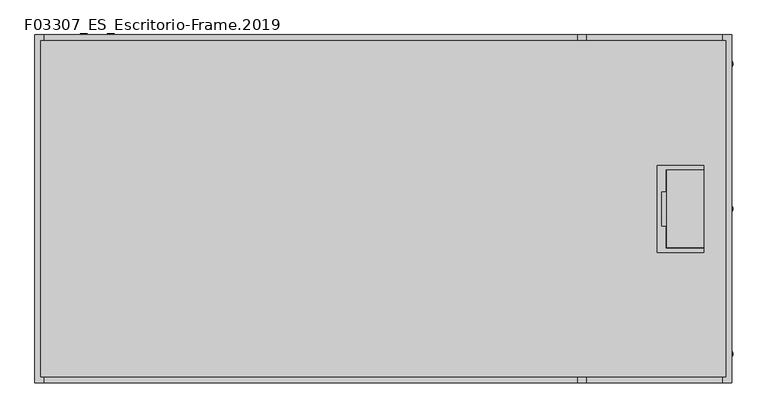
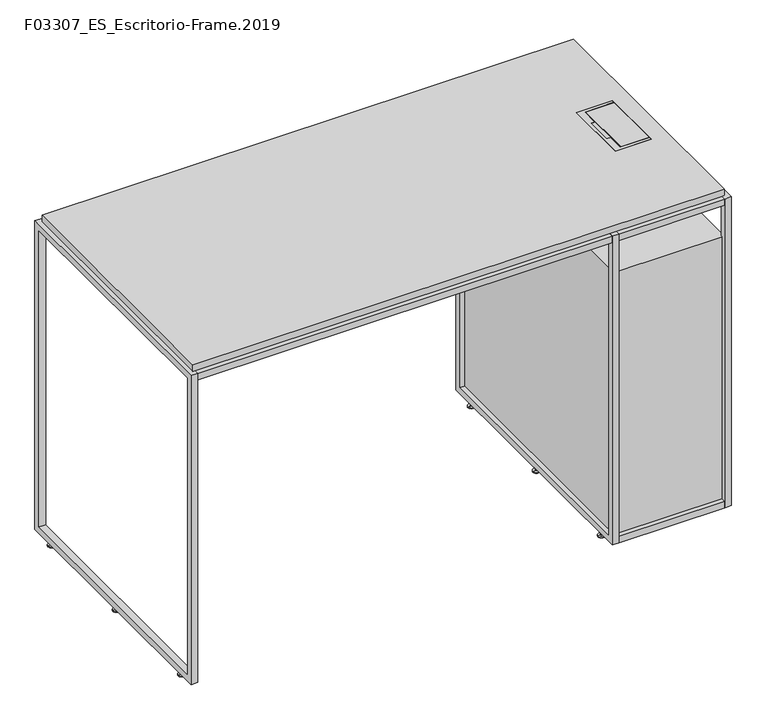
"""IFC4 building model written with IfcOpenShell, lengths in millimetres: furniture geometry, F03307_ES_Escritorio-Frame.2019 : Único."""

from ifc_helpers import new_model, si_unit, point, frame, frame_2d, origin, place, context, project, spatial, polyline, circle_curve, trimmed, segment, composite_curve, outline, extrude, source, transform, mapped, element, save
from ifc_brep_helpers import plane_surface, cylinder_surface, advanced_brep


def f03307_es_escritorio_frame_2019_0ddade11(model_context):
    return source(origin(), model_context, "Body", "SolidModel", [
        extrude(outline(polyline([(-600.0, 735.0), (0.0, 735.0), (0.0, 10.0), (-600.0, 10.0), (-600.0, 735.0)]), holes=[polyline([(-15.0, 720.0), (-585.0, 720.0), (-585.0, 25.0), (-15.0, 25.0), (-15.0, 720.0)])]), frame((585.0, 0.0, 0.0), z_axis=(1.0, 0.0, 0.0), x_axis=(0.0, 1.0, 0.0)), (0.0, 0.0, 1.0), 15.0),
        extrude(outline(polyline([(-600.0, 735.0), (0.0, 735.0), (0.0, 10.0), (-600.0, 10.0), (-600.0, 735.0)]), holes=[polyline([(-15.0, 720.0), (-585.0, 720.0), (-585.0, 25.0), (-15.0, 25.0), (-15.0, 720.0)])]), frame((-600.0, 0.0, 0.0), z_axis=(1.0, 0.0, 0.0), x_axis=(0.0, 1.0, 0.0)), (0.0, 0.0, 1.0), 15.0),
        extrude(outline(polyline([(590.0, -10.0), (590.0, -590.0), (-590.0, -590.0), (-590.0, -10.0), (590.0, -10.0)]), holes=[polyline([(551.8383738, -225.0), (471.8383738, -225.0), (471.8383738, -375.0), (551.8383738, -375.0), (551.8383738, -225.0)])]), frame((0.0, 0.0, 735.0), z_axis=(0.0, 0.0, 1.0), x_axis=(1.0, 0.0, 0.0)), (0.0, 0.0, 1.0), 15.0),
        extrude(outline(polyline([(-600.0, 735.0), (0.0, 735.0), (0.0, 10.0), (-600.0, 10.0), (-600.0, 735.0)]), holes=[polyline([(-15.0, 720.0), (-585.0, 720.0), (-585.0, 25.0), (-15.0, 25.0), (-15.0, 720.0)])]), frame((335.0, 0.0, 0.0), z_axis=(1.0, 0.0, 0.0), x_axis=(0.0, 1.0, 0.0)), (0.0, 0.0, 1.0), 15.0),
        extrude(outline(polyline([(335.0, -585.0), (335.0, -600.0), (-585.0, -600.0), (-585.0, -585.0), (335.0, -585.0)])), frame((0.0, 0.0, 720.0), z_axis=(0.0, 0.0, 1.0), x_axis=(1.0, 0.0, 0.0)), (0.0, 0.0, 1.0), 15.0),
        extrude(outline(polyline([(335.0, 0.0), (335.0, -15.0), (-585.0, -15.0), (-585.0, 0.0), (335.0, 0.0)])), frame((0.0, 0.0, 720.0), z_axis=(0.0, 0.0, 1.0), x_axis=(1.0, 0.0, 0.0)), (0.0, 0.0, 1.0), 15.0),
        extrude(outline(polyline([(585.0, -585.0), (585.0, -600.0), (350.0, -600.0), (350.0, -585.0), (585.0, -585.0)])), frame((0.0, 0.0, 720.0), z_axis=(0.0, 0.0, 1.0), x_axis=(1.0, 0.0, 0.0)), (0.0, 0.0, 1.0), 15.0),
        extrude(outline(polyline([(585.0, 0.0), (585.0, -15.0), (350.0, -15.0), (350.0, 0.0), (585.0, 0.0)])), frame((0.0, 0.0, 720.0), z_axis=(0.0, 0.0, 1.0), x_axis=(1.0, 0.0, 0.0)), (0.0, 0.0, 1.0), 15.0),
        extrude(outline(polyline([(585.0, 0.0), (585.0, -15.0), (350.0, -15.0), (350.0, 0.0), (585.0, 0.0)])), frame((0.0, 0.0, 10.0), z_axis=(0.0, 0.0, 1.0), x_axis=(1.0, 0.0, 0.0)), (0.0, 0.0, 1.0), 15.0),
        extrude(outline(polyline([(585.0, -585.0), (585.0, -600.0), (350.0, -600.0), (350.0, -585.0), (585.0, -585.0)])), frame((0.0, 0.0, 10.0), z_axis=(0.0, 0.0, 1.0), x_axis=(1.0, 0.0, 0.0)), (0.0, 0.0, 1.0), 15.0),
        extrude(outline(polyline([(345.0, -10.0), (590.0, -10.0), (590.0, -590.0), (345.0, -590.0), (345.0, -10.0)]), holes=[composite_curve([segment(trimmed(circle_curve(frame_2d((467.5, -56.0)), 25.0), [point((442.5, -56.0))], [point((492.5, -56.0))], True, "CARTESIAN"), True, "CONTINUOUS"), segment(trimmed(circle_curve(frame_2d((467.5, -56.0)), 25.0), [point((492.5, -56.0))], [point((442.5, -56.0))], True, "CARTESIAN"), True, "CONTINUOUS")], self_intersect=False)]), frame((0.0, 0.0, 25.0), z_axis=(0.0, 0.0, 1.0), x_axis=(1.0, 0.0, 0.0)), (0.0, 0.0, 1.0), 615.0),
        extrude(outline(composite_curve([segment(polyline([(720.0, 428.0), (718.0, 428.0), (718.0, 586.0)]), True, "CONTINUOUS"), segment(trimmed(circle_curve(frame_2d((716.0, 586.0)), 2.0), [point((718.0, 586.0))], [point((716.0, 588.0))], True, "CARTESIAN"), True, "CONTINUOUS"), segment(polyline([(716.0, 588.0), (674.0, 588.0)]), True, "CONTINUOUS"), segment(trimmed(circle_curve(frame_2d((674.0, 586.0)), 2.0), [point((674.0, 588.0))], [point((672.0, 586.0))], True, "CARTESIAN"), True, "CONTINUOUS"), segment(polyline([(672.0, 586.0), (672.0, 428.0)]), True, "CONTINUOUS"), segment(trimmed(circle_curve(frame_2d((674.0, 428.0)), 2.0), [point((672.0, 428.0))], [point((674.0, 426.0))], True, "CARTESIAN"), True, "CONTINUOUS"), segment(polyline([(674.0, 426.0), (682.0, 426.0), (682.0, 424.0), (674.0, 424.0)]), True, "CONTINUOUS"), segment(trimmed(circle_curve(frame_2d((674.0, 428.0)), 4.0), [point((674.0, 424.0))], [point((670.0, 428.0))], False, "CARTESIAN"), True, "CONTINUOUS"), segment(polyline([(670.0, 428.0), (670.0, 586.0)]), True, "CONTINUOUS"), segment(trimmed(circle_curve(frame_2d((674.0, 586.0)), 4.0), [point((670.0, 586.0))], [point((674.0, 590.0))], False, "CARTESIAN"), True, "CONTINUOUS"), segment(polyline([(674.0, 590.0), (716.0, 590.0)]), True, "CONTINUOUS"), segment(trimmed(circle_curve(frame_2d((716.0, 586.0)), 4.0), [point((716.0, 590.0))], [point((720.0, 586.0))], False, "CARTESIAN"), True, "CONTINUOUS"), segment(polyline([(720.0, 586.0), (720.0, 428.0)]), True, "CONTINUOUS")], self_intersect=False)), frame((0.0, -445.8132464, 0.0), z_axis=(0.0, 1.0, 0.0), x_axis=(0.0, 0.0, 1.0)), (0.0, 0.0, 1.0), 315.8132464),
        extrude(outline(polyline([(551.8383738, -225.0), (551.8383738, -232.0), (486.4552224, -232.0), (486.4552224, -270.0), (478.4552224, -270.0), (478.4552224, -330.0), (486.4552224, -330.0), (486.4552224, -368.0), (551.8383738, -368.0), (551.8383738, -375.0), (471.8383738, -375.0), (471.8383738, -225.0), (551.8383738, -225.0)])), frame((0.0, 0.0, 749.0), z_axis=(0.0, 0.0, 1.0), x_axis=(1.0, 0.0, 0.0)), (0.0, 0.0, 1.0), 1.0),
        extrude(outline(polyline([(488.4552224, -367.0), (488.4552224, -233.0), (551.8383738, -233.0), (551.8383738, -367.0), (488.4552224, -367.0)])), frame((0.0, 0.0, 749.0), z_axis=(0.0, 0.0, 1.0), x_axis=(1.0, 0.0, 0.0)), (0.0, 0.0, 1.0), 1.0),
        advanced_brep(
        [(-591.0, -50.0, 10.0), (-594.0, -50.0, 10.0), (-592.5, -50.0, 10.0), (-591.0, -50.0, 2.0), (-594.0, -50.0, 2.0), (-585.0, -50.0, 2.0), (-600.0, -50.0, 2.0), (-585.0, -50.0, 0.0), (-600.0, -50.0, 0.0), (-592.5, -50.0, 0.0)],
        [
            (0, 1, circle_curve(frame((-592.5, -50.0, 10.0), z_axis=(0.0, 0.0, 1.0), x_axis=(-1.0, 0.0, 0.0)), 1.5)),
            (1, 2),
            (2, 0),
            (1, 0, circle_curve(frame((-592.5, -50.0, 10.0), z_axis=(0.0, 0.0, 1.0), x_axis=(-1.0, 0.0, 0.0)), 1.5)),
            (3, 4, circle_curve(frame((-592.5, -50.0, 2.0), z_axis=(0.0, 0.0, 1.0), x_axis=(-1.0, 0.0, 0.0)), 1.5)),
            (4, 1),
            (0, 3),
            (4, 3, circle_curve(frame((-592.5, -50.0, 2.0), z_axis=(0.0, 0.0, 1.0), x_axis=(-1.0, 0.0, 0.0)), 1.5)),
            (5, 6, circle_curve(frame((-592.5, -50.0, 2.0), z_axis=(0.0, 0.0, 1.0), x_axis=(-1.0, 0.0, 0.0)), 7.5)),
            (6, 4),
            (3, 5),
            (6, 5, circle_curve(frame((-592.5, -50.0, 2.0), z_axis=(0.0, 0.0, 1.0), x_axis=(-1.0, 0.0, 0.0)), 7.5)),
            (7, 8, circle_curve(frame((-592.5, -50.0, 0.0), z_axis=(0.0, 0.0, 1.0), x_axis=(-1.0, 0.0, 0.0)), 7.5)),
            (8, 6),
            (5, 7),
            (8, 7, circle_curve(frame((-592.5, -50.0, 0.0), z_axis=(0.0, 0.0, 1.0), x_axis=(-1.0, 0.0, 0.0)), 7.5)),
            (9, 8),
            (7, 9),
        ],
        [
            plane_surface(frame((-592.5, -50.0, 10.0), z_axis=(0.0, 0.0, 1.0), x_axis=(-1.0, 0.0, 0.0))),
            cylinder_surface(frame((-592.5, -50.0, 10.0), z_axis=(0.0, 0.0, -1.0), x_axis=(-1.0, 0.0, 0.0)), 1.5),
            plane_surface(frame((-592.5, -50.0, 2.0), z_axis=(0.0, 0.0, 1.0), x_axis=(-1.0, 0.0, 0.0))),
            cylinder_surface(frame((-592.5, -50.0, 10.0), z_axis=(0.0, 0.0, -1.0), x_axis=(-1.0, 0.0, 0.0)), 7.5),
            plane_surface(frame((-592.5, -50.0, 0.0), z_axis=(0.0, 0.0, -1.0), x_axis=(-1.0, 0.0, 0.0))),
        ],
        [
            (0, [[1, 2, 3]]),
            (0, [[4, -3, -2]]),
            (1, [[5, 6, -1, 7]]),
            (1, [[8, -7, -4, -6]]),
            (2, [[9, 10, -5, 11]]),
            (2, [[12, -11, -8, -10]]),
            (3, [[13, 14, -9, 15]]),
            (3, [[16, -15, -12, -14]]),
            (4, [[17, -13, 18]]),
            (4, [[-18, -16, -17]]),
        ],
    ),
        advanced_brep(
        [(-592.5, -550.0, 10.0), (-594.0, -550.0, 10.0), (-591.0, -550.0, 10.0), (-594.0, -550.0, 2.0), (-591.0, -550.0, 2.0), (-600.0, -550.0, 2.0), (-585.0, -550.0, 2.0), (-600.0, -550.0, 0.0), (-585.0, -550.0, 0.0), (-592.5, -550.0, 0.0)],
        [
            (0, 1),
            (1, 2, circle_curve(frame((-592.5, -550.0, 10.0), z_axis=(0.0, 0.0, 1.0), x_axis=(-1.0, 0.0, 0.0)), 1.5)),
            (2, 0),
            (2, 1, circle_curve(frame((-592.5, -550.0, 10.0), z_axis=(0.0, 0.0, 1.0), x_axis=(-1.0, 0.0, 0.0)), 1.5)),
            (1, 3),
            (3, 4, circle_curve(frame((-592.5, -550.0, 2.0), z_axis=(0.0, 0.0, 1.0), x_axis=(-1.0, 0.0, 0.0)), 1.5)),
            (4, 2),
            (4, 3, circle_curve(frame((-592.5, -550.0, 2.0), z_axis=(0.0, 0.0, 1.0), x_axis=(-1.0, 0.0, 0.0)), 1.5)),
            (3, 5),
            (5, 6, circle_curve(frame((-592.5, -550.0, 2.0), z_axis=(0.0, 0.0, 1.0), x_axis=(-1.0, 0.0, 0.0)), 7.5)),
            (6, 4),
            (6, 5, circle_curve(frame((-592.5, -550.0, 2.0), z_axis=(0.0, 0.0, 1.0), x_axis=(-1.0, 0.0, 0.0)), 7.5)),
            (5, 7),
            (7, 8, circle_curve(frame((-592.5, -550.0, 0.0), z_axis=(0.0, 0.0, 1.0), x_axis=(-1.0, 0.0, 0.0)), 7.5)),
            (8, 6),
            (8, 7, circle_curve(frame((-592.5, -550.0, 0.0), z_axis=(0.0, 0.0, 1.0), x_axis=(-1.0, 0.0, 0.0)), 7.5)),
            (7, 9),
            (9, 8),
        ],
        [
            plane_surface(frame((-592.5, -550.0, 10.0), z_axis=(0.0, 0.0, 1.0), x_axis=(-1.0, 0.0, 0.0))),
            cylinder_surface(frame((-592.5, -550.0, 10.0), z_axis=(0.0, 0.0, 1.0), x_axis=(-1.0, 0.0, 0.0)), 1.5),
            plane_surface(frame((-592.5, -550.0, 2.0), z_axis=(0.0, 0.0, 1.0), x_axis=(-1.0, 0.0, 0.0))),
            cylinder_surface(frame((-592.5, -550.0, 10.0), z_axis=(0.0, 0.0, 1.0), x_axis=(-1.0, 0.0, 0.0)), 7.5),
            plane_surface(frame((-592.5, -550.0, 0.0), z_axis=(0.0, 0.0, -1.0), x_axis=(-1.0, 0.0, 0.0))),
        ],
        [
            (0, [[1, 2, 3]]),
            (0, [[-3, 4, -1]]),
            (1, [[-2, 5, 6, 7]]),
            (1, [[-4, -7, 8, -5]]),
            (2, [[-6, 9, 10, 11]]),
            (2, [[-8, -11, 12, -9]]),
            (3, [[-10, 13, 14, 15]]),
            (3, [[-12, -15, 16, -13]]),
            (4, [[-14, 17, 18]]),
            (4, [[-16, -18, -17]]),
        ],
    ),
        advanced_brep(
        [(-591.0, -300.0, 10.0), (-594.0, -300.0, 10.0), (-592.5, -300.0, 10.0), (-591.0, -300.0, 2.0), (-594.0, -300.0, 2.0), (-585.0, -300.0, 2.0), (-600.0, -300.0, 2.0), (-585.0, -300.0, 0.0), (-600.0, -300.0, 0.0), (-592.5, -300.0, 0.0)],
        [
            (0, 1, circle_curve(frame((-592.5, -300.0, 10.0), z_axis=(0.0, 0.0, 1.0), x_axis=(-1.0, 0.0, 0.0)), 1.5)),
            (1, 2),
            (2, 0),
            (1, 0, circle_curve(frame((-592.5, -300.0, 10.0), z_axis=(0.0, 0.0, 1.0), x_axis=(-1.0, 0.0, 0.0)), 1.5)),
            (3, 4, circle_curve(frame((-592.5, -300.0, 2.0), z_axis=(0.0, 0.0, 1.0), x_axis=(-1.0, 0.0, 0.0)), 1.5)),
            (4, 1),
            (0, 3),
            (4, 3, circle_curve(frame((-592.5, -300.0, 2.0), z_axis=(0.0, 0.0, 1.0), x_axis=(-1.0, 0.0, 0.0)), 1.5)),
            (5, 6, circle_curve(frame((-592.5, -300.0, 2.0), z_axis=(0.0, 0.0, 1.0), x_axis=(-1.0, 0.0, 0.0)), 7.5)),
            (6, 4),
            (3, 5),
            (6, 5, circle_curve(frame((-592.5, -300.0, 2.0), z_axis=(0.0, 0.0, 1.0), x_axis=(-1.0, 0.0, 0.0)), 7.5)),
            (7, 8, circle_curve(frame((-592.5, -300.0, 0.0), z_axis=(0.0, 0.0, 1.0), x_axis=(-1.0, 0.0, 0.0)), 7.5)),
            (8, 6),
            (5, 7),
            (8, 7, circle_curve(frame((-592.5, -300.0, 0.0), z_axis=(0.0, 0.0, 1.0), x_axis=(-1.0, 0.0, 0.0)), 7.5)),
            (9, 8),
            (7, 9),
        ],
        [
            plane_surface(frame((-592.5, -300.0, 10.0), z_axis=(0.0, 0.0, 1.0), x_axis=(-1.0, 0.0, 0.0))),
            cylinder_surface(frame((-592.5, -300.0, 10.0), z_axis=(0.0, 0.0, -1.0), x_axis=(-1.0, 0.0, 0.0)), 1.5),
            plane_surface(frame((-592.5, -300.0, 2.0), z_axis=(0.0, 0.0, 1.0), x_axis=(-1.0, 0.0, 0.0))),
            cylinder_surface(frame((-592.5, -300.0, 10.0), z_axis=(0.0, 0.0, -1.0), x_axis=(-1.0, 0.0, 0.0)), 7.5),
            plane_surface(frame((-592.5, -300.0, 0.0), z_axis=(0.0, 0.0, -1.0), x_axis=(-1.0, 0.0, 0.0))),
        ],
        [
            (0, [[1, 2, 3]]),
            (0, [[4, -3, -2]]),
            (1, [[5, 6, -1, 7]]),
            (1, [[8, -7, -4, -6]]),
            (2, [[9, 10, -5, 11]]),
            (2, [[12, -11, -8, -10]]),
            (3, [[13, 14, -9, 15]]),
            (3, [[16, -15, -12, -14]]),
            (4, [[17, -13, 18]]),
            (4, [[-18, -16, -17]]),
        ],
    ),
        advanced_brep(
        [(341.5, -50.0, 10.0), (338.5, -50.0, 10.0), (340.0, -50.0, 10.0), (341.5, -50.0, 2.0), (338.5, -50.0, 2.0), (347.5, -50.0, 2.0), (332.5, -50.0, 2.0), (347.5, -50.0, 0.0), (332.5, -50.0, 0.0), (340.0, -50.0, 0.0)],
        [
            (0, 1, circle_curve(frame((340.0, -50.0, 10.0), z_axis=(0.0, 0.0, 1.0), x_axis=(-1.0, 0.0, 0.0)), 1.5)),
            (1, 2),
            (2, 0),
            (1, 0, circle_curve(frame((340.0, -50.0, 10.0), z_axis=(0.0, 0.0, 1.0), x_axis=(-1.0, 0.0, 0.0)), 1.5)),
            (3, 4, circle_curve(frame((340.0, -50.0, 2.0), z_axis=(0.0, 0.0, 1.0), x_axis=(-1.0, 0.0, 0.0)), 1.5)),
            (4, 1),
            (0, 3),
            (4, 3, circle_curve(frame((340.0, -50.0, 2.0), z_axis=(0.0, 0.0, 1.0), x_axis=(-1.0, 0.0, 0.0)), 1.5)),
            (5, 6, circle_curve(frame((340.0, -50.0, 2.0), z_axis=(0.0, 0.0, 1.0), x_axis=(-1.0, 0.0, 0.0)), 7.5)),
            (6, 4),
            (3, 5),
            (6, 5, circle_curve(frame((340.0, -50.0, 2.0), z_axis=(0.0, 0.0, 1.0), x_axis=(-1.0, 0.0, 0.0)), 7.5)),
            (7, 8, circle_curve(frame((340.0, -50.0, 0.0), z_axis=(0.0, 0.0, 1.0), x_axis=(-1.0, 0.0, 0.0)), 7.5)),
            (8, 6),
            (5, 7),
            (8, 7, circle_curve(frame((340.0, -50.0, 0.0), z_axis=(0.0, 0.0, 1.0), x_axis=(-1.0, 0.0, 0.0)), 7.5)),
            (9, 8),
            (7, 9),
        ],
        [
            plane_surface(frame((340.0, -50.0, 10.0), z_axis=(0.0, 0.0, 1.0), x_axis=(-1.0, 0.0, 0.0))),
            cylinder_surface(frame((340.0, -50.0, 10.0), z_axis=(0.0, 0.0, -1.0), x_axis=(-1.0, 0.0, 0.0)), 1.5),
            plane_surface(frame((340.0, -50.0, 2.0), z_axis=(0.0, 0.0, 1.0), x_axis=(-1.0, 0.0, 0.0))),
            cylinder_surface(frame((340.0, -50.0, 10.0), z_axis=(0.0, 0.0, -1.0), x_axis=(-1.0, 0.0, 0.0)), 7.5),
            plane_surface(frame((340.0, -50.0, 0.0), z_axis=(0.0, 0.0, -1.0), x_axis=(-1.0, 0.0, 0.0))),
        ],
        [
            (0, [[1, 2, 3]]),
            (0, [[4, -3, -2]]),
            (1, [[5, 6, -1, 7]]),
            (1, [[8, -7, -4, -6]]),
            (2, [[9, 10, -5, 11]]),
            (2, [[12, -11, -8, -10]]),
            (3, [[13, 14, -9, 15]]),
            (3, [[16, -15, -12, -14]]),
            (4, [[17, -13, 18]]),
            (4, [[-18, -16, -17]]),
        ],
    ),
        advanced_brep(
        [(340.0, -550.0, 10.0), (338.5, -550.0, 10.0), (341.5, -550.0, 10.0), (338.5, -550.0, 2.0), (341.5, -550.0, 2.0), (332.5, -550.0, 2.0), (347.5, -550.0, 2.0), (332.5, -550.0, 0.0), (347.5, -550.0, 0.0), (340.0, -550.0, 0.0)],
        [
            (0, 1),
            (1, 2, circle_curve(frame((340.0, -550.0, 10.0), z_axis=(0.0, 0.0, 1.0), x_axis=(-1.0, 0.0, 0.0)), 1.5)),
            (2, 0),
            (2, 1, circle_curve(frame((340.0, -550.0, 10.0), z_axis=(0.0, 0.0, 1.0), x_axis=(-1.0, 0.0, 0.0)), 1.5)),
            (1, 3),
            (3, 4, circle_curve(frame((340.0, -550.0, 2.0), z_axis=(0.0, 0.0, 1.0), x_axis=(-1.0, 0.0, 0.0)), 1.5)),
            (4, 2),
            (4, 3, circle_curve(frame((340.0, -550.0, 2.0), z_axis=(0.0, 0.0, 1.0), x_axis=(-1.0, 0.0, 0.0)), 1.5)),
            (3, 5),
            (5, 6, circle_curve(frame((340.0, -550.0, 2.0), z_axis=(0.0, 0.0, 1.0), x_axis=(-1.0, 0.0, 0.0)), 7.5)),
            (6, 4),
            (6, 5, circle_curve(frame((340.0, -550.0, 2.0), z_axis=(0.0, 0.0, 1.0), x_axis=(-1.0, 0.0, 0.0)), 7.5)),
            (5, 7),
            (7, 8, circle_curve(frame((340.0, -550.0, 0.0), z_axis=(0.0, 0.0, 1.0), x_axis=(-1.0, 0.0, 0.0)), 7.5)),
            (8, 6),
            (8, 7, circle_curve(frame((340.0, -550.0, 0.0), z_axis=(0.0, 0.0, 1.0), x_axis=(-1.0, 0.0, 0.0)), 7.5)),
            (7, 9),
            (9, 8),
        ],
        [
            plane_surface(frame((340.0, -550.0, 10.0), z_axis=(0.0, 0.0, 1.0), x_axis=(-1.0, 0.0, 0.0))),
            cylinder_surface(frame((340.0, -550.0, 10.0), z_axis=(0.0, 0.0, 1.0), x_axis=(-1.0, 0.0, 0.0)), 1.5),
            plane_surface(frame((340.0, -550.0, 2.0), z_axis=(0.0, 0.0, 1.0), x_axis=(-1.0, 0.0, 0.0))),
            cylinder_surface(frame((340.0, -550.0, 10.0), z_axis=(0.0, 0.0, 1.0), x_axis=(-1.0, 0.0, 0.0)), 7.5),
            plane_surface(frame((340.0, -550.0, 0.0), z_axis=(0.0, 0.0, -1.0), x_axis=(-1.0, 0.0, 0.0))),
        ],
        [
            (0, [[1, 2, 3]]),
            (0, [[-3, 4, -1]]),
            (1, [[-2, 5, 6, 7]]),
            (1, [[-4, -7, 8, -5]]),
            (2, [[-6, 9, 10, 11]]),
            (2, [[-8, -11, 12, -9]]),
            (3, [[-10, 13, 14, 15]]),
            (3, [[-12, -15, 16, -13]]),
            (4, [[-14, 17, 18]]),
            (4, [[-16, -18, -17]]),
        ],
    ),
        advanced_brep(
        [(341.5, -300.0, 10.0), (338.5, -300.0, 10.0), (340.0, -300.0, 10.0), (341.5, -300.0, 2.0), (338.5, -300.0, 2.0), (347.5, -300.0, 2.0), (332.5, -300.0, 2.0), (347.5, -300.0, 0.0), (332.5, -300.0, 0.0), (340.0, -300.0, 0.0)],
        [
            (0, 1, circle_curve(frame((340.0, -300.0, 10.0), z_axis=(0.0, 0.0, 1.0), x_axis=(-1.0, 0.0, 0.0)), 1.5)),
            (1, 2),
            (2, 0),
            (1, 0, circle_curve(frame((340.0, -300.0, 10.0), z_axis=(0.0, 0.0, 1.0), x_axis=(-1.0, 0.0, 0.0)), 1.5)),
            (3, 4, circle_curve(frame((340.0, -300.0, 2.0), z_axis=(0.0, 0.0, 1.0), x_axis=(-1.0, 0.0, 0.0)), 1.5)),
            (4, 1),
            (0, 3),
            (4, 3, circle_curve(frame((340.0, -300.0, 2.0), z_axis=(0.0, 0.0, 1.0), x_axis=(-1.0, 0.0, 0.0)), 1.5)),
            (5, 6, circle_curve(frame((340.0, -300.0, 2.0), z_axis=(0.0, 0.0, 1.0), x_axis=(-1.0, 0.0, 0.0)), 7.5)),
            (6, 4),
            (3, 5),
            (6, 5, circle_curve(frame((340.0, -300.0, 2.0), z_axis=(0.0, 0.0, 1.0), x_axis=(-1.0, 0.0, 0.0)), 7.5)),
            (7, 8, circle_curve(frame((340.0, -300.0, 0.0), z_axis=(0.0, 0.0, 1.0), x_axis=(-1.0, 0.0, 0.0)), 7.5)),
            (8, 6),
            (5, 7),
            (8, 7, circle_curve(frame((340.0, -300.0, 0.0), z_axis=(0.0, 0.0, 1.0), x_axis=(-1.0, 0.0, 0.0)), 7.5)),
            (9, 8),
            (7, 9),
        ],
        [
            plane_surface(frame((340.0, -300.0, 10.0), z_axis=(0.0, 0.0, 1.0), x_axis=(-1.0, 0.0, 0.0))),
            cylinder_surface(frame((340.0, -300.0, 10.0), z_axis=(0.0, 0.0, -1.0), x_axis=(-1.0, 0.0, 0.0)), 1.5),
            plane_surface(frame((340.0, -300.0, 2.0), z_axis=(0.0, 0.0, 1.0), x_axis=(-1.0, 0.0, 0.0))),
            cylinder_surface(frame((340.0, -300.0, 10.0), z_axis=(0.0, 0.0, -1.0), x_axis=(-1.0, 0.0, 0.0)), 7.5),
            plane_surface(frame((340.0, -300.0, 0.0), z_axis=(0.0, 0.0, -1.0), x_axis=(-1.0, 0.0, 0.0))),
        ],
        [
            (0, [[1, 2, 3]]),
            (0, [[4, -3, -2]]),
            (1, [[5, 6, -1, 7]]),
            (1, [[8, -7, -4, -6]]),
            (2, [[9, 10, -5, 11]]),
            (2, [[12, -11, -8, -10]]),
            (3, [[13, 14, -9, 15]]),
            (3, [[16, -15, -12, -14]]),
            (4, [[17, -13, 18]]),
            (4, [[-18, -16, -17]]),
        ],
    ),
        advanced_brep(
        [(596.5, -50.0, 10.0), (593.5, -50.0, 10.0), (595.0, -50.0, 10.0), (596.5, -50.0, 2.0), (593.5, -50.0, 2.0), (602.5, -50.0, 2.0), (587.5, -50.0, 2.0), (602.5, -50.0, 0.0), (587.5, -50.0, 0.0), (595.0, -50.0, 0.0)],
        [
            (0, 1, circle_curve(frame((595.0, -50.0, 10.0), z_axis=(0.0, 0.0, 1.0), x_axis=(-1.0, 0.0, 0.0)), 1.5)),
            (1, 2),
            (2, 0),
            (1, 0, circle_curve(frame((595.0, -50.0, 10.0), z_axis=(0.0, 0.0, 1.0), x_axis=(-1.0, 0.0, 0.0)), 1.5)),
            (3, 4, circle_curve(frame((595.0, -50.0, 2.0), z_axis=(0.0, 0.0, 1.0), x_axis=(-1.0, 0.0, 0.0)), 1.5)),
            (4, 1),
            (0, 3),
            (4, 3, circle_curve(frame((595.0, -50.0, 2.0), z_axis=(0.0, 0.0, 1.0), x_axis=(-1.0, 0.0, 0.0)), 1.5)),
            (5, 6, circle_curve(frame((595.0, -50.0, 2.0), z_axis=(0.0, 0.0, 1.0), x_axis=(-1.0, 0.0, 0.0)), 7.5)),
            (6, 4),
            (3, 5),
            (6, 5, circle_curve(frame((595.0, -50.0, 2.0), z_axis=(0.0, 0.0, 1.0), x_axis=(-1.0, 0.0, 0.0)), 7.5)),
            (7, 8, circle_curve(frame((595.0, -50.0, 0.0), z_axis=(0.0, 0.0, 1.0), x_axis=(-1.0, 0.0, 0.0)), 7.5)),
            (8, 6),
            (5, 7),
            (8, 7, circle_curve(frame((595.0, -50.0, 0.0), z_axis=(0.0, 0.0, 1.0), x_axis=(-1.0, 0.0, 0.0)), 7.5)),
            (9, 8),
            (7, 9),
        ],
        [
            plane_surface(frame((595.0, -50.0, 10.0), z_axis=(0.0, 0.0, 1.0), x_axis=(-1.0, 0.0, 0.0))),
            cylinder_surface(frame((595.0, -50.0, 10.0), z_axis=(0.0, 0.0, -1.0), x_axis=(-1.0, 0.0, 0.0)), 1.5),
            plane_surface(frame((595.0, -50.0, 2.0), z_axis=(0.0, 0.0, 1.0), x_axis=(-1.0, 0.0, 0.0))),
            cylinder_surface(frame((595.0, -50.0, 10.0), z_axis=(0.0, 0.0, -1.0), x_axis=(-1.0, 0.0, 0.0)), 7.5),
            plane_surface(frame((595.0, -50.0, 0.0), z_axis=(0.0, 0.0, -1.0), x_axis=(-1.0, 0.0, 0.0))),
        ],
        [
            (0, [[1, 2, 3]]),
            (0, [[4, -3, -2]]),
            (1, [[5, 6, -1, 7]]),
            (1, [[8, -7, -4, -6]]),
            (2, [[9, 10, -5, 11]]),
            (2, [[12, -11, -8, -10]]),
            (3, [[13, 14, -9, 15]]),
            (3, [[16, -15, -12, -14]]),
            (4, [[17, -13, 18]]),
            (4, [[-18, -16, -17]]),
        ],
    ),
        advanced_brep(
        [(595.0, -550.0, 10.0), (593.5, -550.0, 10.0), (596.5, -550.0, 10.0), (593.5, -550.0, 2.0), (596.5, -550.0, 2.0), (587.5, -550.0, 2.0), (602.5, -550.0, 2.0), (587.5, -550.0, 0.0), (602.5, -550.0, 0.0), (595.0, -550.0, 0.0)],
        [
            (0, 1),
            (1, 2, circle_curve(frame((595.0, -550.0, 10.0), z_axis=(0.0, 0.0, 1.0), x_axis=(-1.0, 0.0, 0.0)), 1.5)),
            (2, 0),
            (2, 1, circle_curve(frame((595.0, -550.0, 10.0), z_axis=(0.0, 0.0, 1.0), x_axis=(-1.0, 0.0, 0.0)), 1.5)),
            (1, 3),
            (3, 4, circle_curve(frame((595.0, -550.0, 2.0), z_axis=(0.0, 0.0, 1.0), x_axis=(-1.0, 0.0, 0.0)), 1.5)),
            (4, 2),
            (4, 3, circle_curve(frame((595.0, -550.0, 2.0), z_axis=(0.0, 0.0, 1.0), x_axis=(-1.0, 0.0, 0.0)), 1.5)),
            (3, 5),
            (5, 6, circle_curve(frame((595.0, -550.0, 2.0), z_axis=(0.0, 0.0, 1.0), x_axis=(-1.0, 0.0, 0.0)), 7.5)),
            (6, 4),
            (6, 5, circle_curve(frame((595.0, -550.0, 2.0), z_axis=(0.0, 0.0, 1.0), x_axis=(-1.0, 0.0, 0.0)), 7.5)),
            (5, 7),
            (7, 8, circle_curve(frame((595.0, -550.0, 0.0), z_axis=(0.0, 0.0, 1.0), x_axis=(-1.0, 0.0, 0.0)), 7.5)),
            (8, 6),
            (8, 7, circle_curve(frame((595.0, -550.0, 0.0), z_axis=(0.0, 0.0, 1.0), x_axis=(-1.0, 0.0, 0.0)), 7.5)),
            (7, 9),
            (9, 8),
        ],
        [
            plane_surface(frame((595.0, -550.0, 10.0), z_axis=(0.0, 0.0, 1.0), x_axis=(-1.0, 0.0, 0.0))),
            cylinder_surface(frame((595.0, -550.0, 10.0), z_axis=(0.0, 0.0, 1.0), x_axis=(-1.0, 0.0, 0.0)), 1.5),
            plane_surface(frame((595.0, -550.0, 2.0), z_axis=(0.0, 0.0, 1.0), x_axis=(-1.0, 0.0, 0.0))),
            cylinder_surface(frame((595.0, -550.0, 10.0), z_axis=(0.0, 0.0, 1.0), x_axis=(-1.0, 0.0, 0.0)), 7.5),
            plane_surface(frame((595.0, -550.0, 0.0), z_axis=(0.0, 0.0, -1.0), x_axis=(-1.0, 0.0, 0.0))),
        ],
        [
            (0, [[1, 2, 3]]),
            (0, [[-3, 4, -1]]),
            (1, [[-2, 5, 6, 7]]),
            (1, [[-4, -7, 8, -5]]),
            (2, [[-6, 9, 10, 11]]),
            (2, [[-8, -11, 12, -9]]),
            (3, [[-10, 13, 14, 15]]),
            (3, [[-12, -15, 16, -13]]),
            (4, [[-14, 17, 18]]),
            (4, [[-16, -18, -17]]),
        ],
    ),
        advanced_brep(
        [(596.5, -300.0, 10.0), (593.5, -300.0, 10.0), (595.0, -300.0, 10.0), (596.5, -300.0, 2.0), (593.5, -300.0, 2.0), (602.5, -300.0, 2.0), (587.5, -300.0, 2.0), (602.5, -300.0, 0.0), (587.5, -300.0, 0.0), (595.0, -300.0, 0.0)],
        [
            (0, 1, circle_curve(frame((595.0, -300.0, 10.0), z_axis=(0.0, 0.0, 1.0), x_axis=(-1.0, 0.0, 0.0)), 1.5)),
            (1, 2),
            (2, 0),
            (1, 0, circle_curve(frame((595.0, -300.0, 10.0), z_axis=(0.0, 0.0, 1.0), x_axis=(-1.0, 0.0, 0.0)), 1.5)),
            (3, 4, circle_curve(frame((595.0, -300.0, 2.0), z_axis=(0.0, 0.0, 1.0), x_axis=(-1.0, 0.0, 0.0)), 1.5)),
            (4, 1),
            (0, 3),
            (4, 3, circle_curve(frame((595.0, -300.0, 2.0), z_axis=(0.0, 0.0, 1.0), x_axis=(-1.0, 0.0, 0.0)), 1.5)),
            (5, 6, circle_curve(frame((595.0, -300.0, 2.0), z_axis=(0.0, 0.0, 1.0), x_axis=(-1.0, 0.0, 0.0)), 7.5)),
            (6, 4),
            (3, 5),
            (6, 5, circle_curve(frame((595.0, -300.0, 2.0), z_axis=(0.0, 0.0, 1.0), x_axis=(-1.0, 0.0, 0.0)), 7.5)),
            (7, 8, circle_curve(frame((595.0, -300.0, 0.0), z_axis=(0.0, 0.0, 1.0), x_axis=(-1.0, 0.0, 0.0)), 7.5)),
            (8, 6),
            (5, 7),
            (8, 7, circle_curve(frame((595.0, -300.0, 0.0), z_axis=(0.0, 0.0, 1.0), x_axis=(-1.0, 0.0, 0.0)), 7.5)),
            (9, 8),
            (7, 9),
        ],
        [
            plane_surface(frame((595.0, -300.0, 10.0), z_axis=(0.0, 0.0, 1.0), x_axis=(-1.0, 0.0, 0.0))),
            cylinder_surface(frame((595.0, -300.0, 10.0), z_axis=(0.0, 0.0, -1.0), x_axis=(-1.0, 0.0, 0.0)), 1.5),
            plane_surface(frame((595.0, -300.0, 2.0), z_axis=(0.0, 0.0, 1.0), x_axis=(-1.0, 0.0, 0.0))),
            cylinder_surface(frame((595.0, -300.0, 10.0), z_axis=(0.0, 0.0, -1.0), x_axis=(-1.0, 0.0, 0.0)), 7.5),
            plane_surface(frame((595.0, -300.0, 0.0), z_axis=(0.0, 0.0, -1.0), x_axis=(-1.0, 0.0, 0.0))),
        ],
        [
            (0, [[1, 2, 3]]),
            (0, [[4, -3, -2]]),
            (1, [[5, 6, -1, 7]]),
            (1, [[8, -7, -4, -6]]),
            (2, [[9, 10, -5, 11]]),
            (2, [[12, -11, -8, -10]]),
            (3, [[13, 14, -9, 15]]),
            (3, [[16, -15, -12, -14]]),
            (4, [[17, -13, 18]]),
            (4, [[-18, -16, -17]]),
        ],
    ),
    ])


if __name__ == "__main__":
    model = new_model("IFC4")
    model_context = context("Model", 3, world=origin())
    ifc_project = project(units=[si_unit("LENGTHUNIT", "METRE", prefix="MILLI")], contexts=[model_context])
    site = spatial("IfcSite", under=ifc_project)
    building = spatial("IfcBuilding", under=site)
    placement = place(None, origin())
    f03307_es_escritorio_frame_2019_shape = f03307_es_escritorio_frame_2019_0ddade11(model_context)
    element("IfcFurniture", 1, ObjectType="F03307_ES_Escritorio-Frame.2019 : Único", at=placement, inside=building, context=model_context, shape_type="MappedRepresentation", body=[
        mapped(f03307_es_escritorio_frame_2019_shape, transform((0.0, 0.0, 0.0), x_axis=(1.0, 0.0, 0.0), y_axis=(0.0, 1.0, 0.0), z_axis=(0.0, 0.0, 1.0))),
    ])
    save(model, "model.ifc")
